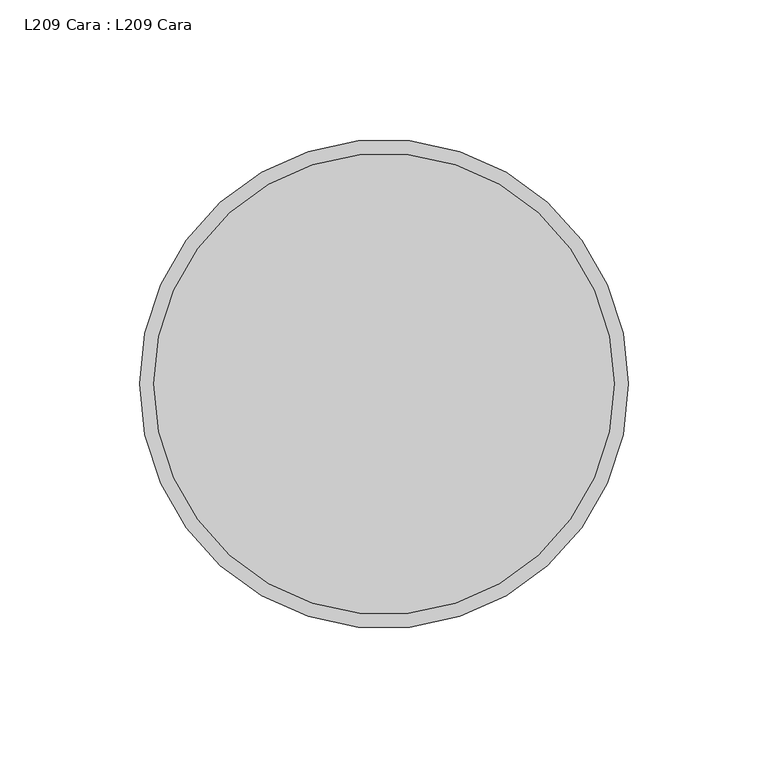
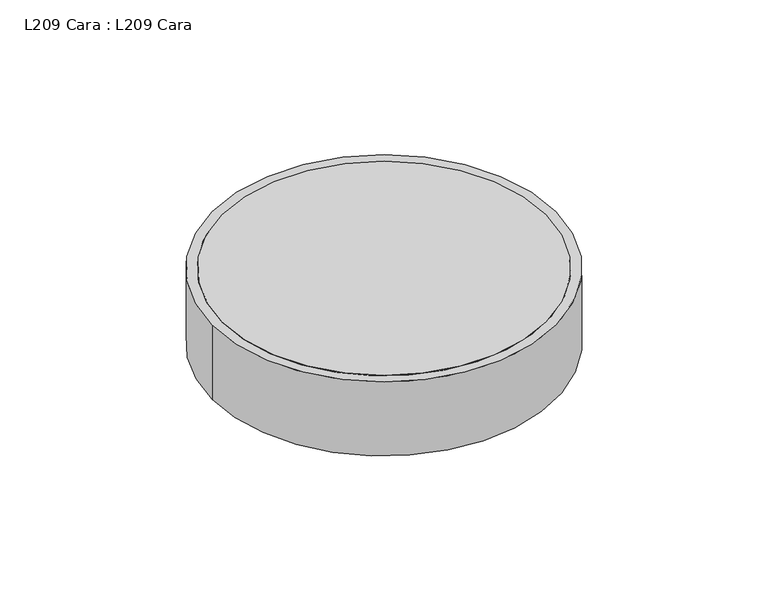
"""IFC4 building model written with IfcOpenShell, lengths in millimetres: light fixture geometry, L209 Cara : L209 Cara."""

from ifc_helpers import new_model, si_unit, point, frame, origin, origin_with_axes, origin_2d, place, context, project, spatial, circle_curve, trimmed, segment, composite_curve, outline, extrude, source, transform, mapped, element, save


def l209_cara_l209_cara_4ba3335d(model_context):
    return source(origin(), model_context, "Body", "SweptSolid", [
        extrude(outline(composite_curve([segment(trimmed(circle_curve(origin_2d(), 82.5), [point((-82.5, 0.0))], [point((82.5, 0.0))], False, "CARTESIAN"), True, "CONTINUOUS"), segment(trimmed(circle_curve(origin_2d(), 82.5), [point((82.5, 0.0))], [point((-82.5, 0.0))], False, "CARTESIAN"), True, "CONTINUOUS")], self_intersect=False)), frame((0.0, 0.0, 30.0), z_axis=(0.0, 0.0, 1.0), x_axis=(1.0, 0.0, 0.0)), (0.0, 0.0, 1.0), 10.0),
        extrude(outline(composite_curve([segment(trimmed(circle_curve(origin_2d(), 87.5), [point((87.5, 0.0))], [point((-87.5, 0.0))], False, "CARTESIAN"), True, "CONTINUOUS"), segment(trimmed(circle_curve(origin_2d(), 87.5), [point((-87.5, 0.0))], [point((87.5, 0.0))], False, "CARTESIAN"), True, "CONTINUOUS")], self_intersect=False), holes=[composite_curve([segment(trimmed(circle_curve(origin_2d(), 82.5), [point((82.5, 0.0))], [point((-82.5, 0.0))], True, "CARTESIAN"), True, "CONTINUOUS"), segment(trimmed(circle_curve(origin_2d(), 82.5), [point((-82.5, 0.0))], [point((82.5, 0.0))], True, "CARTESIAN"), True, "CONTINUOUS")], self_intersect=False)]), origin_with_axes(), (0.0, 0.0, 1.0), 40.0),
    ])


if __name__ == "__main__":
    model = new_model("IFC4")
    model_context = context("Model", 3, world=origin())
    ifc_project = project(units=[si_unit("LENGTHUNIT", "METRE", prefix="MILLI")], contexts=[model_context])
    site = spatial("IfcSite", under=ifc_project)
    building = spatial("IfcBuilding", under=site)
    placement = place(None, origin())
    l209_cara_l209_cara_shape = l209_cara_l209_cara_4ba3335d(model_context)
    element("IfcLightFixture", 1, ObjectType="L209 Cara : L209 Cara", at=placement, inside=building, context=model_context, shape_type="MappedRepresentation", body=[
        mapped(l209_cara_l209_cara_shape, transform((0.0, 0.0, 0.0), x_axis=(1.0, 0.0, 0.0), y_axis=(0.0, 1.0, 0.0), z_axis=(0.0, 0.0, 1.0))),
    ])
    save(model, "model.ifc")
